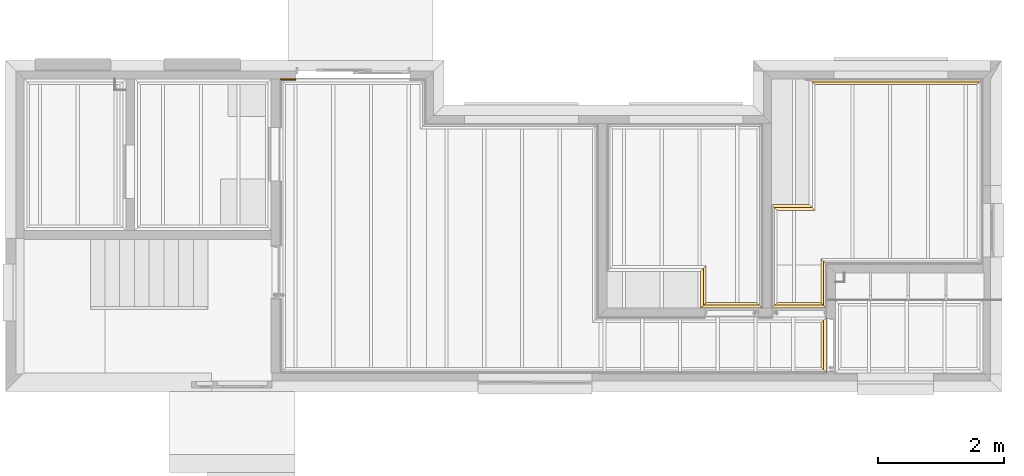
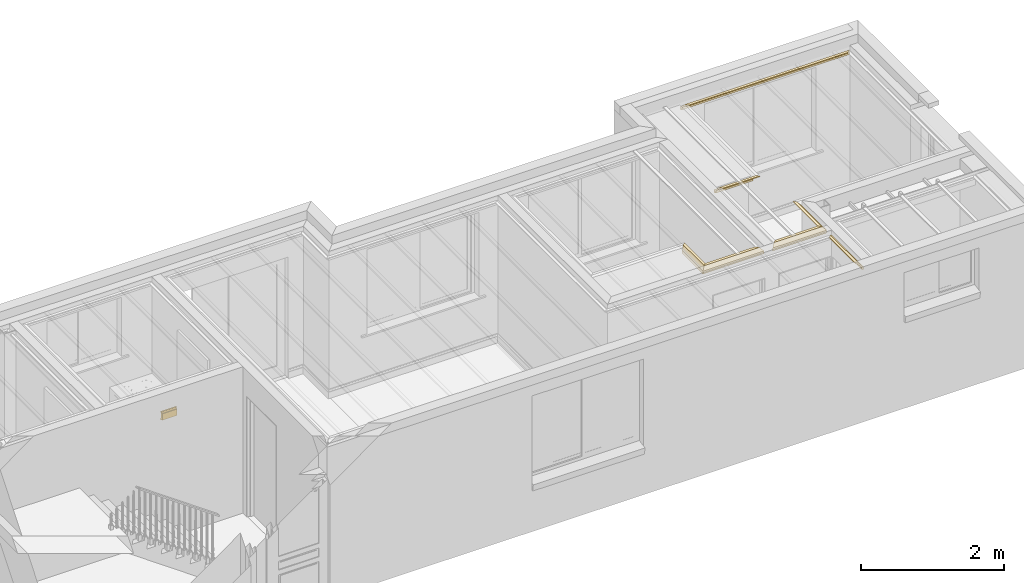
# One storey, part 13 of 15: 8 coverings.
"""IFC2X3 building model written with IfcOpenShell, lengths in millimetres."""

from ifc_helpers import new_model, entity, si_unit, converted_unit, money_unit, direction, frame, origin_with_axes, place, context, subcontext, project, spatial, faceted_brep, source, transform, mapped, material, type_object, element, save


model = new_model("IFC2X3")

# Units and contexts
model_context = context("Model", 3, precision=1e-05, world=origin_with_axes(), true_north=direction((0.0, 1.0)))
body_context = subcontext(model_context, "Body", "Model", "MODEL_VIEW")
ifc_project = project(units=[si_unit("LENGTHUNIT", "METRE", prefix="MILLI"), si_unit("AREAUNIT", "SQUARE_METRE"), si_unit("VOLUMEUNIT", "CUBIC_METRE"), converted_unit("PLANEANGLEUNIT", "DEGREE", entity("IfcPlaneAngleMeasure", 0.0174532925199), si_unit("PLANEANGLEUNIT", "RADIAN"), dimensions=[0, 0, 0, 0, 0, 0, 0]), si_unit("SOLIDANGLEUNIT", "STERADIAN"), money_unit("AUD"), si_unit("TIMEUNIT", "SECOND"), si_unit("MASSUNIT", "GRAM"), si_unit("THERMODYNAMICTEMPERATUREUNIT", "DEGREE_CELSIUS"), si_unit("LUMINOUSINTENSITYUNIT", "LUMEN")], contexts=[model_context])

# Site, building, storey
site_placement = place(None, origin_with_axes())
site = spatial("IfcSite", under=ifc_project, at=site_placement, Name="Lot 1. East Hills", CompositionType="ELEMENT")
building_placement = place(site_placement, origin_with_axes())
building = spatial("IfcBuilding", under=site, at=building_placement, Name="Proposed Units 7 & 8", CompositionType="ELEMENT")
storey_placement = place(building_placement, frame((0.0, 0.0, 3202.0), z_axis=(0.0, 0.0, 1.0), x_axis=(1.0, 0.0, 0.0)))
storey = spatial("IfcBuildingStorey", under=building, at=storey_placement, Name="Ground", CompositionType="ELEMENT", Elevation=3202.0)

# Coverings
ifc_material = material(Name="50 %")
covering_type = type_object("IfcCoveringType", Name="Molding Straight 12", PredefinedType="NOTDEFINED")
shared_shape_1 = source(origin_with_axes(), body_context, "Body", "Brep", [
    faceted_brep([(-600.656985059, 0.0, -97.7142857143), (0.0, 0.0, -97.7142857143), (20.5714285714, -20.5714285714, -97.7142857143), (-580.085556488, -20.5714285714, -97.7142857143), (-600.656985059, 0.0, -48.8571428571), (0.0, 0.0, -48.8571428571), (48.8571428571, -48.8571428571, 0.0), (90.0, -90.0, 0.0), (90.0, -90.0, -12.8571428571), (74.5714285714, -74.5714285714, -12.8571428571), (74.5714285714, -74.5714285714, -25.7142857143), (60.5952001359, -60.5952001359, -27.5542910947), (47.5714285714, -47.5714285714, -32.9489139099), (36.3876623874, -36.3876623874, -41.5305195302), (27.8060567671, -27.8060567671, -52.7142857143), (22.4114339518, -22.4114339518, -65.7380572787), (20.5714285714, -20.5714285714, -79.7142857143), (-580.085556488, -20.5714285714, -79.7142857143), (-578.245551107, -22.4114339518, -65.7380572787), (-572.850928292, -27.8060567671, -52.7142857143), (-564.269322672, -36.3876623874, -41.5305195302), (-553.085556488, -47.5714285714, -32.9489139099), (-540.061784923, -60.5952001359, -27.5542910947), (-526.085556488, -74.5714285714, -25.7142857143), (-526.085556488, -74.5714285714, -12.8571428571), (-510.656985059, -90.0, -12.8571428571), (-510.656985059, -90.0, 0.0), (-551.799842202, -48.8571428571, 0.0)], [[[0, 1, 2, 3]], [[4, 5, 1, 0]], [[1, 5, 6, 7, 8, 9, 10, 11, 12, 13, 14, 15, 16, 2]], [[3, 2, 16, 17]], [[0, 3, 17, 18, 19, 20, 21, 22, 23, 24, 25, 26, 27, 4]], [[27, 6, 5, 4]], [[26, 7, 6, 27]], [[25, 8, 7, 26]], [[24, 9, 8, 25]], [[23, 10, 9, 24]], [[22, 11, 10, 23]], [[21, 12, 11, 22]], [[20, 13, 12, 21]], [[19, 14, 13, 20]], [[18, 15, 14, 19]], [[17, 16, 15, 18]]]),
])
covering_1_placement = place(storey_placement, frame((12775.6569845, 2968.30677789, 2469.0), z_axis=(0.0, 0.0, 1.0), x_axis=(1.0, 0.0, 0.0)))
element("IfcCovering", 1, at=covering_1_placement, inside=storey, type_object=covering_type, material=ifc_material, Name="CEL-MOD-G25 - Molding Straight 12 - object -", PredefinedType="NOTDEFINED", context=body_context, shape_type="MappedRepresentation", body=[
    mapped(shared_shape_1, transform((0.0, 0.0, 0.0))),
])
shared_shape_2 = source(origin_with_axes(), body_context, "Body", "Brep", [
    faceted_brep([(989.94059249, 0.0, -97.7142857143), (969.369163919, -20.5714285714, -97.7142857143), (20.5714285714, -20.5714285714, -97.7142857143), (0.0, 0.0, -97.7142857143), (989.94059249, 0.0, -48.8571428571), (941.083449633, -48.8571428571, 0.0), (899.94059249, -90.0, 0.0), (899.94059249, -90.0, -12.8571428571), (915.369163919, -74.5714285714, -12.8571428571), (915.369163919, -74.5714285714, -25.7142857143), (929.345392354, -60.5952001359, -27.5542910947), (942.369163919, -47.5714285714, -32.9489139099), (953.552930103, -36.3876623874, -41.5305195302), (962.134535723, -27.8060567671, -52.7142857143), (967.529158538, -22.4114339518, -65.7380572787), (969.369163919, -20.5714285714, -79.7142857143), (20.5714285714, -20.5714285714, -79.7142857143), (22.4114339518, -22.4114339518, -65.7380572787), (27.8060567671, -27.8060567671, -52.7142857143), (36.3876623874, -36.3876623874, -41.5305195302), (47.5714285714, -47.5714285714, -32.9489139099), (60.5952001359, -60.5952001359, -27.5542910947), (74.5714285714, -74.5714285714, -25.7142857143), (74.5714285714, -74.5714285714, -12.8571428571), (90.0, -90.0, -12.8571428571), (90.0, -90.0, 0.0), (48.8571428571, -48.8571428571, 0.0), (0.0, 0.0, -48.8571428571)], [[[0, 1, 2, 3]], [[0, 4, 5, 6, 7, 8, 9, 10, 11, 12, 13, 14, 15, 1]], [[1, 15, 16, 2]], [[3, 2, 16, 17, 18, 19, 20, 21, 22, 23, 24, 25, 26, 27]], [[4, 0, 3, 27]], [[5, 4, 27, 26]], [[6, 5, 26, 25]], [[7, 6, 25, 24]], [[8, 7, 24, 23]], [[9, 8, 23, 22]], [[10, 9, 22, 21]], [[11, 10, 21, 20]], [[12, 11, 20, 19]], [[13, 12, 19, 18]], [[14, 13, 18, 17]], [[15, 14, 17, 16]]]),
])
covering_2_placement = place(storey_placement, frame((12035.0000001, 1322.99999985, 2469.0), z_axis=(0.0, 0.0, 1.0), x_axis=(-1.0, 0.0, 0.0)))
element("IfcCovering", 2, at=covering_2_placement, inside=storey, type_object=covering_type, material=ifc_material, Name="CEL-MOD-G23 - Molding Straight 12 - object -", PredefinedType="NOTDEFINED", context=body_context, shape_type="MappedRepresentation", body=[
    mapped(shared_shape_2, transform((0.0, 0.0, 0.0))),
])
shared_shape_3 = source(origin_with_axes(), body_context, "Body", "Brep", [
    faceted_brep([(890.000001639, 0.0, -97.7142857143), (869.428573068, -20.5714285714, -97.7142857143), (20.5714285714, -20.5714285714, -97.7142857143), (0.0, 0.0, -97.7142857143), (890.000001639, 0.0, -48.8571428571), (841.142858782, -48.8571428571, 0.0), (800.000001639, -90.0, 0.0), (800.000001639, -90.0, -12.8571428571), (815.428573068, -74.5714285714, -12.8571428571), (815.428573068, -74.5714285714, -25.7142857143), (829.404801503, -60.5952001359, -27.5542910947), (842.428573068, -47.5714285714, -32.9489139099), (853.612339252, -36.3876623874, -41.5305195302), (862.193944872, -27.8060567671, -52.7142857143), (867.588567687, -22.4114339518, -65.7380572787), (869.428573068, -20.5714285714, -79.7142857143), (20.5714285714, -20.5714285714, -79.7142857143), (22.4114339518, -22.4114339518, -65.7380572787), (27.8060567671, -27.8060567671, -52.7142857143), (36.3876623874, -36.3876623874, -41.5305195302), (47.5714285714, -47.5714285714, -32.9489139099), (60.5952001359, -60.5952001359, -27.5542910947), (74.5714285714, -74.5714285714, -25.7142857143), (74.5714285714, -74.5714285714, -12.8571428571), (90.0, -90.0, -12.8571428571), (90.0, -90.0, 0.0), (48.8571428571, -48.8571428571, 0.0), (0.0, 0.0, -48.8571428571)], [[[0, 1, 2, 3]], [[0, 4, 5, 6, 7, 8, 9, 10, 11, 12, 13, 14, 15, 1]], [[1, 15, 16, 2]], [[3, 2, 16, 17, 18, 19, 20, 21, 22, 23, 24, 25, 26, 27]], [[4, 0, 3, 27]], [[5, 4, 27, 26]], [[6, 5, 26, 25]], [[7, 6, 25, 24]], [[8, 7, 24, 23]], [[9, 8, 23, 22]], [[10, 9, 22, 21]], [[11, 10, 21, 20]], [[12, 11, 20, 19]], [[13, 12, 19, 18]], [[14, 13, 18, 17]], [[15, 14, 17, 16]]]),
])
covering_3_placement = place(storey_placement, frame((13050.0000012, 1183.00000045, 2469.0), z_axis=(0.0, 0.0, 1.0), x_axis=(0.0, -1.0, 0.0)))
element("IfcCovering", 3, at=covering_3_placement, inside=storey, type_object=covering_type, material=ifc_material, Name="CEL-MOD-G12 - Molding Straight 12 - object -", PredefinedType="NOTDEFINED", context=body_context, shape_type="MappedRepresentation", body=[
    mapped(shared_shape_3, transform((0.0, 0.0, 0.0))),
])
shared_shape_4 = source(origin_with_axes(), body_context, "Body", "Brep", [
    faceted_brep([(-585.656985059, 0.0, -97.7142857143), (0.0, 0.0, -97.7142857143), (20.5714285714, -20.5714285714, -97.7142857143), (-565.085556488, -20.5714285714, -97.7142857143), (-585.656985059, 0.0, -48.8571428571), (0.0, 0.0, -48.8571428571), (48.8571428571, -48.8571428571, 0.0), (90.0, -90.0, 0.0), (90.0, -90.0, -12.8571428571), (74.5714285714, -74.5714285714, -12.8571428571), (74.5714285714, -74.5714285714, -25.7142857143), (60.5952001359, -60.5952001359, -27.5542910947), (47.5714285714, -47.5714285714, -32.9489139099), (36.3876623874, -36.3876623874, -41.5305195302), (27.8060567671, -27.8060567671, -52.7142857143), (22.4114339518, -22.4114339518, -65.7380572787), (20.5714285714, -20.5714285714, -79.7142857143), (-565.085556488, -20.5714285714, -79.7142857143), (-563.245551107, -22.4114339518, -65.7380572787), (-557.850928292, -27.8060567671, -52.7142857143), (-549.269322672, -36.3876623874, -41.5305195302), (-538.085556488, -47.5714285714, -32.9489139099), (-525.061784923, -60.5952001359, -27.5542910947), (-511.085556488, -74.5714285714, -25.7142857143), (-511.085556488, -74.5714285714, -12.8571428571), (-495.656985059, -90.0, -12.8571428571), (-495.656985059, -90.0, 0.0), (-536.799842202, -48.8571428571, 0.0)], [[[0, 1, 2, 3]], [[4, 5, 1, 0]], [[1, 5, 6, 7, 8, 9, 10, 11, 12, 13, 14, 15, 16, 2]], [[3, 2, 16, 17]], [[0, 3, 17, 18, 19, 20, 21, 22, 23, 24, 25, 26, 27, 4]], [[27, 6, 5, 4]], [[26, 7, 6, 27]], [[25, 8, 7, 26]], [[24, 9, 8, 25]], [[23, 10, 9, 24]], [[22, 11, 10, 23]], [[21, 12, 11, 22]], [[20, 13, 12, 21]], [[19, 14, 13, 20]], [[18, 15, 14, 19]], [[17, 16, 15, 18]]]),
])
covering_4_placement = place(storey_placement, frame((11045.0594069, 1908.65698491, 2469.0), z_axis=(0.0, 0.0, 1.0), x_axis=(0.0, 1.0, 0.0)))
element("IfcCovering", 4, at=covering_4_placement, inside=storey, type_object=covering_type, material=ifc_material, Name="CEL-MOD-G07 - Molding Straight 12 - object -", PredefinedType="NOTDEFINED", context=body_context, shape_type="MappedRepresentation", body=[
    mapped(shared_shape_4, transform((0.0, 0.0, 0.0))),
])
shared_shape_5 = source(origin_with_axes(), body_context, "Body", "Brep", [
    faceted_brep([(699.999998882, 0.0, -97.7142857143), (679.428570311, -20.5714285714, -97.7142857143), (-20.5714285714, -20.5714285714, -97.7142857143), (0.0, 0.0, -97.7142857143), (699.999998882, 0.0, -48.8571428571), (651.142856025, -48.8571428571, 0.0), (609.999998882, -90.0, 0.0), (609.999998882, -90.0, -12.8571428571), (625.428570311, -74.5714285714, -12.8571428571), (625.428570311, -74.5714285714, -25.7142857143), (639.404798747, -60.5952001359, -27.5542910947), (652.428570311, -47.5714285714, -32.9489139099), (663.612336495, -36.3876623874, -41.5305195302), (672.193942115, -27.8060567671, -52.7142857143), (677.588564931, -22.4114339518, -65.7380572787), (679.428570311, -20.5714285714, -79.7142857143), (-20.5714285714, -20.5714285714, -79.7142857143), (-22.4114339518, -22.4114339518, -65.7380572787), (-27.8060567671, -27.8060567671, -52.7142857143), (-36.3876623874, -36.3876623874, -41.5305195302), (-47.5714285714, -47.5714285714, -32.9489139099), (-60.5952001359, -60.5952001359, -27.5542910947), (-74.5714285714, -74.5714285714, -25.7142857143), (-74.5714285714, -74.5714285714, -12.8571428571), (-90.0, -90.0, -12.8571428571), (-90.0, -90.0, 0.0), (-48.8571428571, -48.8571428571, 0.0), (0.0, 0.0, -48.8571428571)], [[[0, 1, 2, 3]], [[0, 4, 5, 6, 7, 8, 9, 10, 11, 12, 13, 14, 15, 1]], [[1, 15, 16, 2]], [[3, 2, 16, 17, 18, 19, 20, 21, 22, 23, 24, 25, 26, 27]], [[4, 0, 3, 27]], [[5, 4, 27, 26]], [[6, 5, 26, 25]], [[7, 6, 25, 24]], [[8, 7, 24, 23]], [[9, 8, 23, 22]], [[10, 9, 22, 21]], [[11, 10, 21, 20]], [[12, 11, 20, 19]], [[13, 12, 19, 18]], [[14, 13, 18, 17]], [[15, 14, 17, 16]]]),
])
covering_5_placement = place(storey_placement, frame((13050.0000011, 2022.99999873, 2469.0), z_axis=(0.0, 0.0, 1.0), x_axis=(0.0, -1.0, 0.0)))
element("IfcCovering", 5, at=covering_5_placement, inside=storey, type_object=covering_type, material=ifc_material, Name="U2_HANDBASIN - Molding Straight 12 - object -", PredefinedType="NOTDEFINED", context=body_context, shape_type="MappedRepresentation", body=[
    mapped(shared_shape_5, transform((0.0, 0.0, 0.0))),
])
shared_shape_6 = source(origin_with_axes(), body_context, "Body", "Brep", [
    faceted_brep([(875.000001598, 0.0, -97.7142857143), (854.428573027, -20.5714285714, -97.7142857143), (20.5714285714, -20.5714285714, -97.7142857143), (0.0, 0.0, -97.7142857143), (875.000001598, 0.0, -48.8571428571), (826.142858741, -48.8571428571, 0.0), (785.000001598, -90.0, 0.0), (785.000001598, -90.0, -12.8571428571), (800.428573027, -74.5714285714, -12.8571428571), (800.428573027, -74.5714285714, -25.7142857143), (814.404801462, -60.5952001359, -27.5542910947), (827.428573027, -47.5714285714, -32.9489139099), (838.612339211, -36.3876623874, -41.5305195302), (847.193944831, -27.8060567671, -52.7142857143), (852.588567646, -22.4114339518, -65.7380572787), (854.428573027, -20.5714285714, -79.7142857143), (20.5714285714, -20.5714285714, -79.7142857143), (22.4114339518, -22.4114339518, -65.7380572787), (27.8060567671, -27.8060567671, -52.7142857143), (36.3876623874, -36.3876623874, -41.5305195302), (47.5714285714, -47.5714285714, -32.9489139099), (60.5952001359, -60.5952001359, -27.5542910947), (74.5714285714, -74.5714285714, -25.7142857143), (74.5714285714, -74.5714285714, -12.8571428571), (90.0, -90.0, -12.8571428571), (90.0, -90.0, 0.0), (48.8571428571, -48.8571428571, 0.0), (0.0, 0.0, -48.8571428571)], [[[0, 1, 2, 3]], [[0, 4, 5, 6, 7, 8, 9, 10, 11, 12, 13, 14, 15, 1]], [[1, 15, 16, 2]], [[3, 2, 16, 17, 18, 19, 20, 21, 22, 23, 24, 25, 26, 27]], [[4, 0, 3, 27]], [[5, 4, 27, 26]], [[6, 5, 26, 25]], [[7, 6, 25, 24]], [[8, 7, 24, 23]], [[9, 8, 23, 22]], [[10, 9, 22, 21]], [[11, 10, 21, 20]], [[12, 11, 20, 19]], [[13, 12, 19, 18]], [[14, 13, 18, 17]], [[15, 14, 17, 16]]]),
])
covering_6_placement = place(storey_placement, frame((13050.0000011, 1322.99999985, 2469.0), z_axis=(0.0, 0.0, 1.0), x_axis=(-1.0, 0.0, 0.0)))
element("IfcCovering", 6, at=covering_6_placement, inside=storey, type_object=covering_type, material=ifc_material, Name="U2_HANDBASIN - Molding Straight 12 - object -", PredefinedType="NOTDEFINED", context=body_context, shape_type="MappedRepresentation", body=[
    mapped(shared_shape_6, transform((0.0, 0.0, 0.0))),
])
shared_shape_7 = source(origin_with_axes(), body_context, "Body", "Brep", [
    faceted_brep([(-2759.34301665, 0.0, -97.7142857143), (0.0, 0.0, -97.7142857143), (-20.5714285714, -20.5714285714, -97.7142857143), (-2738.77158808, -20.5714285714, -97.7142857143), (-2759.34301665, 0.0, -48.8571428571), (0.0, 0.0, -48.8571428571), (-48.8571428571, -48.8571428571, 0.0), (-90.0, -90.0, 0.0), (-90.0, -90.0, -12.8571428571), (-74.5714285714, -74.5714285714, -12.8571428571), (-74.5714285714, -74.5714285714, -25.7142857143), (-60.5952001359, -60.5952001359, -27.5542910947), (-47.5714285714, -47.5714285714, -32.9489139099), (-36.3876623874, -36.3876623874, -41.5305195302), (-27.8060567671, -27.8060567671, -52.7142857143), (-22.4114339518, -22.4114339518, -65.7380572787), (-20.5714285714, -20.5714285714, -79.7142857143), (-2738.77158808, -20.5714285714, -79.7142857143), (-2736.9315827, -22.4114339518, -65.7380572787), (-2731.53695989, -27.8060567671, -52.7142857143), (-2722.95535427, -36.3876623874, -41.5305195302), (-2711.77158808, -47.5714285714, -32.9489139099), (-2698.74781652, -60.5952001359, -27.5542910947), (-2684.77158808, -74.5714285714, -25.7142857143), (-2684.77158808, -74.5714285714, -12.8571428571), (-2669.34301665, -90.0, -12.8571428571), (-2669.34301665, -90.0, 0.0), (-2710.4858738, -48.8571428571, 0.0)], [[[0, 1, 2, 3]], [[4, 5, 1, 0]], [[1, 5, 6, 7, 8, 9, 10, 11, 12, 13, 14, 15, 16, 2]], [[3, 2, 16, 17]], [[0, 3, 17, 18, 19, 20, 21, 22, 23, 24, 25, 26, 27, 4]], [[27, 6, 5, 4]], [[26, 7, 6, 27]], [[25, 8, 7, 26]], [[24, 9, 8, 25]], [[23, 10, 9, 24]], [[22, 11, 10, 23]], [[21, 12, 11, 22]], [[20, 13, 12, 21]], [[19, 14, 13, 20]], [[18, 15, 14, 19]], [[17, 16, 15, 18]]]),
])
covering_7_placement = place(storey_placement, frame((15535.0000012, 4968.00000119, 2469.0), z_axis=(0.0, 0.0, 1.0), x_axis=(1.0, 0.0, 0.0)))
element("IfcCovering", 7, at=covering_7_placement, inside=storey, type_object=covering_type, material=ifc_material, Name="CEL-MOD-G02 - Molding Straight 12 - object -", PredefinedType="NOTDEFINED", context=body_context, shape_type="MappedRepresentation", body=[
    mapped(shared_shape_7, transform((0.0, 0.0, 0.0))),
])
shared_shape_8 = source(origin_with_axes(), body_context, "Body", "Brep", [
    faceted_brep([(252.497783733, -19.0298507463, -150.0), (252.497783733, -19.0298507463, -40.2985074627), (19.0298507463, -19.0298507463, -40.2985074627), (19.0298507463, -19.0298507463, -150.0), (252.497783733, 0.0, -150.0), (252.497783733, 0.0, -120.895522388), (252.497783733, -2.23880597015, -118.656716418), (252.497783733, -2.23880597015, -24.6268656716), (252.497783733, 0.0, -22.3880597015), (252.497783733, 0.0, 0.0), (252.497783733, -6.71641791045, 0.0), (252.497783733, -8.9552238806, -4.4776119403), (252.497783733, -9.19197067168, -5.17383533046), (252.497783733, -9.23315907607, -5.90805571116), (252.497783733, -9.07576633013, -6.62638959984), (252.497783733, -8.73134328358, -7.27611940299), (252.497783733, -8.1712130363, -8.36014699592), (252.497783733, -7.94776119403, -9.55970149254), (252.497783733, -8.2485368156, -12.6066468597), (252.497783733, -9.35788915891, -15.4603601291), (252.497783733, -11.1940298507, -17.9104477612), (252.497783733, -15.6211975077, -24.0923863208), (252.497783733, -17.9104477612, -31.3432835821), (252.497783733, -17.9257206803, -33.6342255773), (252.497783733, -17.3014780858, -35.8385326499), (252.497783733, -16.087254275, -37.7812907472), (252.497783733, -14.3793991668, -39.3083399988), (252.497783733, -12.3134328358, -40.2985074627), (12.3134328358, -12.3134328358, -40.2985074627), (14.3793991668, -14.3793991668, -39.3083399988), (16.087254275, -16.087254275, -37.7812907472), (17.3014780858, -17.3014780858, -35.8385326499), (17.9257206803, -17.9257206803, -33.6342255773), (17.9104477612, -17.9104477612, -31.3432835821), (15.6211975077, -15.6211975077, -24.0923863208), (11.1940298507, -11.1940298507, -17.9104477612), (9.35788915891, -9.35788915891, -15.4603601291), (8.2485368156, -8.2485368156, -12.6066468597), (7.94776119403, -7.94776119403, -9.55970149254), (8.1712130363, -8.1712130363, -8.36014699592), (8.73134328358, -8.73134328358, -7.27611940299), (9.07576633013, -9.07576633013, -6.62638959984), (9.23315907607, -9.23315907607, -5.90805571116), (9.19197067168, -9.19197067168, -5.17383533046), (8.9552238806, -8.9552238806, -4.4776119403), (6.71641791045, -6.71641791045, 0.0), (0.0, 0.0, 0.0), (0.0, 0.0, -22.3880597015), (2.23880597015, -2.23880597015, -24.6268656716), (2.23880597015, -2.23880597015, -118.656716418), (0.0, 0.0, -120.895522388), (0.0, 0.0, -150.0)], [[[0, 1, 2, 3]], [[0, 4, 5, 6, 7, 8, 9, 10, 11, 12, 13, 14, 15, 16, 17, 18, 19, 20, 21, 22, 23, 24, 25, 26, 27, 1]], [[1, 27, 28, 2]], [[3, 2, 28, 29, 30, 31, 32, 33, 34, 35, 36, 37, 38, 39, 40, 41, 42, 43, 44, 45, 46, 47, 48, 49, 50, 51]], [[4, 0, 3, 51]], [[5, 4, 51, 50]], [[6, 5, 50, 49]], [[7, 6, 49, 48]], [[8, 7, 48, 47]], [[9, 8, 47, 46]], [[10, 9, 46, 45]], [[11, 10, 45, 44]], [[12, 11, 44, 43]], [[13, 12, 43, 42]], [[14, 13, 42, 41]], [[15, 14, 41, 40]], [[16, 15, 40, 39]], [[17, 16, 39, 38]], [[18, 17, 38, 37]], [[19, 18, 37, 36]], [[20, 19, 36, 35]], [[21, 20, 35, 34]], [[22, 21, 34, 33]], [[23, 22, 33, 32]], [[24, 23, 32, 31]], [[25, 24, 31, 30]], [[26, 25, 30, 29]], [[27, 26, 29, 28]]]),
])
covering_8_placement = place(storey_placement, frame((4365.0022156, 4968.00000119, 150.0), z_axis=(0.0, 0.0, 1.0), x_axis=(1.0, 0.0, 0.0)))
element("IfcCovering", 8, at=covering_8_placement, inside=storey, type_object=covering_type, material=ifc_material, Name="Sk_01 - Molding Straight 12 - object -", PredefinedType="NOTDEFINED", context=body_context, shape_type="MappedRepresentation", body=[
    mapped(shared_shape_8, transform((0.0, 0.0, 0.0))),
])

save(model, "model.ifc")
